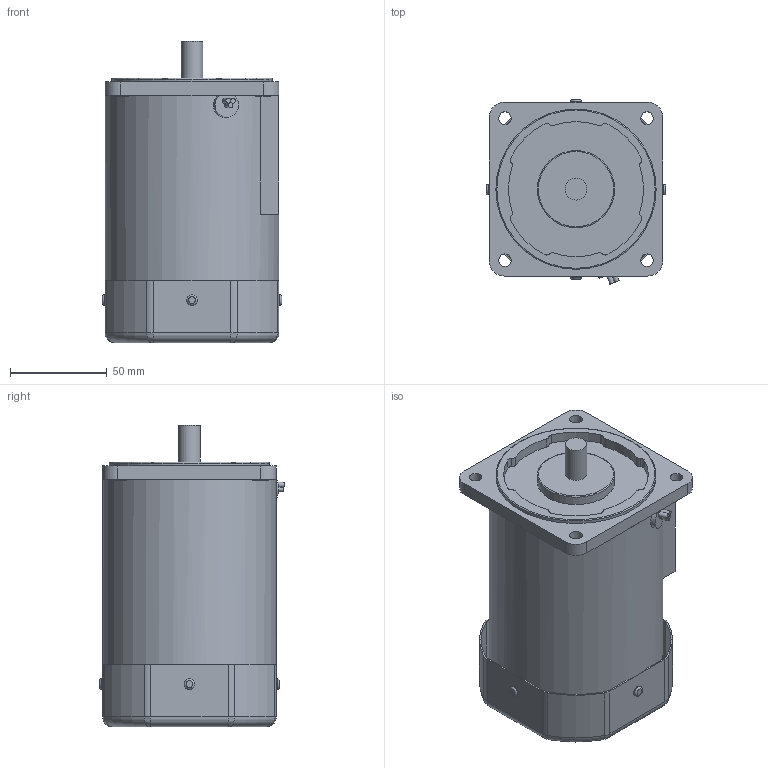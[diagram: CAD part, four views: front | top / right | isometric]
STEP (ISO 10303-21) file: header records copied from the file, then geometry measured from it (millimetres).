
FILE_DESCRIPTION((''),'2;1');
FILE_NAME('E:\2공장-도면\3D\표준형 3D(민규)\step file\K9IP90Fㅁ.stp','2014-11-12T09:05:15',('AHN'),(''),'Autodesk Inventor 2012','Autodesk Inventor 2012','');
FILE_SCHEMA(('CONFIG_CONTROL_DESIGN'));
Length unit declared in the file: millimetre
Products named in the file (1): K9IP90Fㅁ
Bounding box: 93 x 95.71 x 156 mm (x, y, z)
Volume: 789213.4 mm3; surface area: 82947.3 mm2
Topology: 1 solids, 7 shells, 264 faces, 621 edges, 371 vertices
Faces by surface type: cylinder 131, plane 79, torus 46, bspline 8
Full cylindrical faces by diameter (mm): 5.5 x4, 6.5 x4, 8 x4, 11.3 x1, 40 x1, 83 x1, 90 x1
Entity records: 8340 total; most frequent: CARTESIAN_POINT 2267, DIRECTION 1313, ORIENTED_EDGE 1192, EDGE_CURVE 596, AXIS2_PLACEMENT_3D 525, VERTEX_POINT 368, EDGE_LOOP 331, CIRCLE 268
